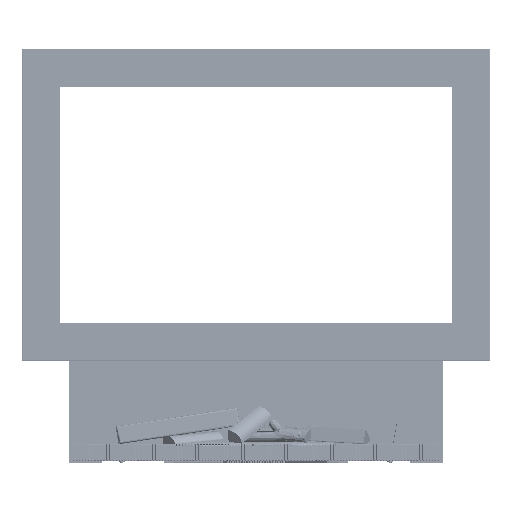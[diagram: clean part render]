
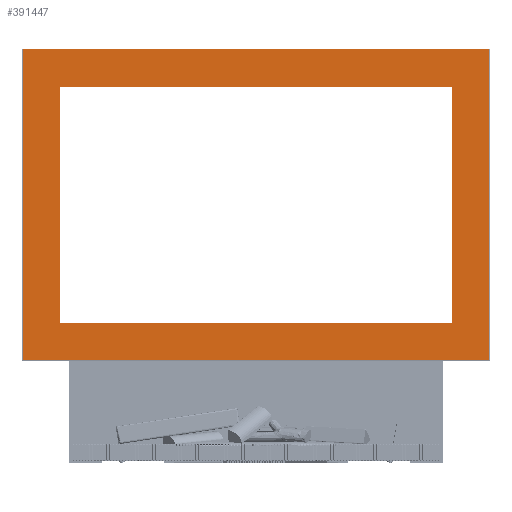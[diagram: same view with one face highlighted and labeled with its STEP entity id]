
A CAD part, top view. The second image highlights one B-rep face of the part: STEP entity #391447.
In plain terms, the highlighted planar face has unit normal (0, 0, 1) as drawn and (0, 0, -1) by its records, which use the part's own axes.
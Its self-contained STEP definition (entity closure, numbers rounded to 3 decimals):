
#1424 = VECTOR ( 'NONE', #320333, 1000. ) ;
#6261 = DIRECTION ( 'NONE',  ( 0., 1., 0. ) ) ;
#7944 = PLANE ( 'NONE',  #332011 ) ;
#25672 = DIRECTION ( 'NONE',  ( 0., 1., 0. ) ) ;
#31831 = EDGE_LOOP ( 'NONE', ( #208854, #142491, #188549, #244000 ) ) ;
#34892 = VERTEX_POINT ( 'NONE', #243791 ) ;
#49982 = VERTEX_POINT ( 'NONE', #392281 ) ;
#57995 = DIRECTION ( 'NONE',  ( 1., 0., 0. ) ) ;
#72149 = EDGE_LOOP ( 'NONE', ( #282671, #387889, #295119, #175962 ) ) ;
#77624 = CARTESIAN_POINT ( 'NONE',  ( 0., -148., 0. ) ) ;
#85930 = EDGE_CURVE ( 'NONE', #280075, #352079, #106628, .T. ) ;
#90560 = EDGE_CURVE ( 'NONE', #296165, #383286, #193015, .T. ) ;
#90760 = CARTESIAN_POINT ( 'NONE',  ( -913., -2., 0. ) ) ;
#106628 = LINE ( 'NONE', #77624, #212586 ) ;
#112507 = EDGE_CURVE ( 'NONE', #352079, #296165, #335505, .T. ) ;
#121007 = DIRECTION ( 'NONE',  ( 0., -1., 0. ) ) ;
#130389 = EDGE_CURVE ( 'NONE', #172290, #425382, #367065, .T. ) ;
#132948 = DIRECTION ( 'NONE',  ( 0., -1., 0. ) ) ;
#142491 = ORIENTED_EDGE ( 'NONE', *, *, #112507, .T. ) ;
#148019 = EDGE_CURVE ( 'NONE', #49982, #172290, #384911, .T. ) ;
#148196 = FACE_BOUND ( 'NONE', #31831, .T. ) ;
#157984 = CARTESIAN_POINT ( 'NONE',  ( 767., -1072., 0. ) ) ;
#164849 = CARTESIAN_POINT ( 'NONE',  ( 915., -2., 0. ) ) ;
#172290 = VERTEX_POINT ( 'NONE', #388134 ) ;
#175962 = ORIENTED_EDGE ( 'NONE', *, *, #148019, .T. ) ;
#176073 = CARTESIAN_POINT ( 'NONE',  ( -767., -148., 0. ) ) ;
#184593 = CARTESIAN_POINT ( 'NONE',  ( 0., -1218., 0. ) ) ;
#188549 = ORIENTED_EDGE ( 'NONE', *, *, #90560, .T. ) ;
#190517 = CARTESIAN_POINT ( 'NONE',  ( 767., -610., 0. ) ) ;
#192212 = CARTESIAN_POINT ( 'NONE',  ( 913., -610., 0. ) ) ;
#193015 = LINE ( 'NONE', #386777, #202916 ) ;
#200112 = CARTESIAN_POINT ( 'NONE',  ( -913., 0., 0. ) ) ;
#202916 = VECTOR ( 'NONE', #288792, 1000. ) ;
#208854 = ORIENTED_EDGE ( 'NONE', *, *, #85930, .T. ) ;
#212586 = VECTOR ( 'NONE', #420334, 1000. ) ;
#212785 = CARTESIAN_POINT ( 'NONE',  ( 0., -610., 0. ) ) ;
#221205 = LINE ( 'NONE', #192212, #392504 ) ;
#222878 = LINE ( 'NONE', #164849, #257717 ) ;
#241699 = EDGE_CURVE ( 'NONE', #383286, #280075, #297247, .T. ) ;
#243791 = CARTESIAN_POINT ( 'NONE',  ( 913., -2., 0. ) ) ;
#244000 = ORIENTED_EDGE ( 'NONE', *, *, #241699, .T. ) ;
#244329 = EDGE_CURVE ( 'NONE', #425382, #34892, #222878, .T. ) ;
#257717 = VECTOR ( 'NONE', #57995, 1000. ) ;
#276599 = EDGE_CURVE ( 'NONE', #34892, #49982, #221205, .T. ) ;
#280075 = VERTEX_POINT ( 'NONE', #296366 ) ;
#282671 = ORIENTED_EDGE ( 'NONE', *, *, #130389, .T. ) ;
#288792 = DIRECTION ( 'NONE',  ( 1., 0., 0. ) ) ;
#292392 = VECTOR ( 'NONE', #25672, 1000. ) ;
#295119 = ORIENTED_EDGE ( 'NONE', *, *, #276599, .T. ) ;
#296165 = VERTEX_POINT ( 'NONE', #317863 ) ;
#296366 = CARTESIAN_POINT ( 'NONE',  ( 767., -148., 0. ) ) ;
#297247 = LINE ( 'NONE', #190517, #292392 ) ;
#308702 = CARTESIAN_POINT ( 'NONE',  ( -767., -610., 0. ) ) ;
#312948 = FACE_OUTER_BOUND ( 'NONE', #72149, .T. ) ;
#317863 = CARTESIAN_POINT ( 'NONE',  ( -767., -1072., 0. ) ) ;
#320098 = VECTOR ( 'NONE', #6261, 1000. ) ;
#320333 = DIRECTION ( 'NONE',  ( -1., 0., 0. ) ) ;
#332011 = AXIS2_PLACEMENT_3D ( 'NONE', #212785, #410899, #350732 ) ;
#335505 = LINE ( 'NONE', #308702, #392117 ) ;
#350732 = DIRECTION ( 'NONE',  ( -1., 0., 0. ) ) ;
#352079 = VERTEX_POINT ( 'NONE', #176073 ) ;
#367065 = LINE ( 'NONE', #200112, #320098 ) ;
#383286 = VERTEX_POINT ( 'NONE', #157984 ) ;
#384911 = LINE ( 'NONE', #184593, #1424 ) ;
#386777 = CARTESIAN_POINT ( 'NONE',  ( 0., -1072., 0. ) ) ;
#387889 = ORIENTED_EDGE ( 'NONE', *, *, #244329, .T. ) ;
#388134 = CARTESIAN_POINT ( 'NONE',  ( -913., -1218., 0. ) ) ;
#391447 = ADVANCED_FACE ( 'NONE', ( #148196, #312948 ), #7944, .T. ) ;
#392117 = VECTOR ( 'NONE', #132948, 1000. ) ;
#392281 = CARTESIAN_POINT ( 'NONE',  ( 913., -1218., 0. ) ) ;
#392504 = VECTOR ( 'NONE', #121007, 1000. ) ;
#410899 = DIRECTION ( 'NONE',  ( 0., 0., -1. ) ) ;
#420334 = DIRECTION ( 'NONE',  ( -1., 0., 0. ) ) ;
#425382 = VERTEX_POINT ( 'NONE', #90760 ) ;
